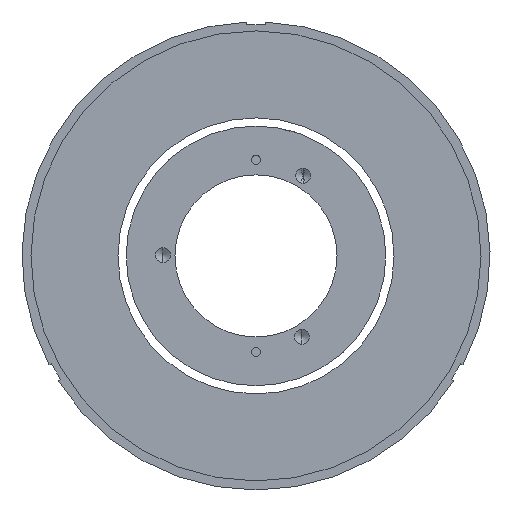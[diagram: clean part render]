
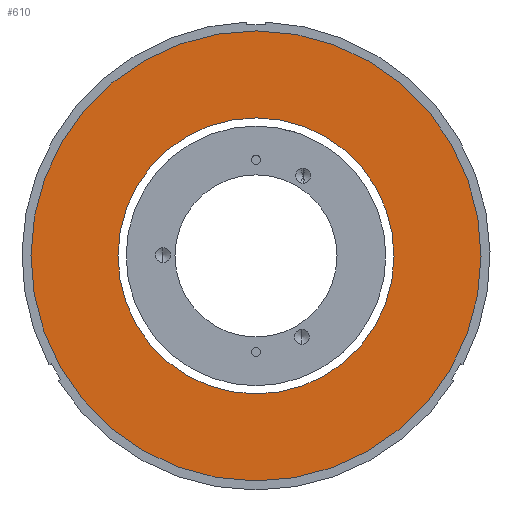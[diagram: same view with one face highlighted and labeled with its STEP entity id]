
A CAD part, front view. The second image highlights one B-rep face of the part: STEP entity #610.
In plain terms, the highlighted planar face has unit normal (0, -1, 0).
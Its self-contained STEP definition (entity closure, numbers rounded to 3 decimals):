
#203 = DIRECTION ( 'NONE',  ( -0.764, 0., 0.646 ) ) ;
#252 = DIRECTION ( 'NONE',  ( 0., 1., 0. ) ) ;
#472 = FACE_OUTER_BOUND ( 'NONE', #3662, .T. ) ;
#474 = CARTESIAN_POINT ( 'NONE',  ( -18.777, -3.315, 64.646 ) ) ;
#610 = ADVANCED_FACE ( 'NONE', ( #472, #1918 ), #4548, .F. ) ;
#634 = EDGE_CURVE ( 'NONE', #2937, #4086, #1154, .T. ) ;
#770 = DIRECTION ( 'NONE',  ( 0., 1., 0. ) ) ;
#817 = AXIS2_PLACEMENT_3D ( 'NONE', #4723, #252, #203 ) ;
#1000 = AXIS2_PLACEMENT_3D ( 'NONE', #1203, #3020, #2704 ) ;
#1059 = ORIENTED_EDGE ( 'NONE', *, *, #1589, .F. ) ;
#1154 = CIRCLE ( 'NONE', #1000, 23. ) ;
#1203 = CARTESIAN_POINT ( 'NONE',  ( 9.861, -3.315, 40.436 ) ) ;
#1393 = CIRCLE ( 'NONE', #4122, 37.5 ) ;
#1519 = DIRECTION ( 'NONE',  ( 0., 1., 0. ) ) ;
#1589 = EDGE_CURVE ( 'NONE', #4358, #3317, #1393, .T. ) ;
#1918 = FACE_BOUND ( 'NONE', #2874, .T. ) ;
#2077 = ORIENTED_EDGE ( 'NONE', *, *, #634, .T. ) ;
#2103 = AXIS2_PLACEMENT_3D ( 'NONE', #4186, #770, #3124 ) ;
#2173 = CIRCLE ( 'NONE', #3331, 23. ) ;
#2704 = DIRECTION ( 'NONE',  ( -0.764, 0., 0.646 ) ) ;
#2734 = EDGE_CURVE ( 'NONE', #3317, #4358, #4337, .T. ) ;
#2749 = DIRECTION ( 'NONE',  ( -0.764, 0., 0.646 ) ) ;
#2831 = ORIENTED_EDGE ( 'NONE', *, *, #3427, .T. ) ;
#2874 = EDGE_LOOP ( 'NONE', ( #2077, #2831 ) ) ;
#2937 = VERTEX_POINT ( 'NONE', #3047 ) ;
#3020 = DIRECTION ( 'NONE',  ( 0., 1., 0. ) ) ;
#3047 = CARTESIAN_POINT ( 'NONE',  ( 27.426, -3.315, 25.587 ) ) ;
#3124 = DIRECTION ( 'NONE',  ( -0.764, 0., 0.646 ) ) ;
#3317 = VERTEX_POINT ( 'NONE', #4137 ) ;
#3331 = AXIS2_PLACEMENT_3D ( 'NONE', #3426, #4521, #2749 ) ;
#3381 = DIRECTION ( 'NONE',  ( -0.764, 0., 0.646 ) ) ;
#3426 = CARTESIAN_POINT ( 'NONE',  ( 9.861, -3.315, 40.436 ) ) ;
#3427 = EDGE_CURVE ( 'NONE', #4086, #2937, #2173, .T. ) ;
#3543 = CARTESIAN_POINT ( 'NONE',  ( -7.703, -3.315, 55.284 ) ) ;
#3662 = EDGE_LOOP ( 'NONE', ( #3986, #1059 ) ) ;
#3718 = CARTESIAN_POINT ( 'NONE',  ( 9.861, -3.315, 40.436 ) ) ;
#3986 = ORIENTED_EDGE ( 'NONE', *, *, #2734, .F. ) ;
#4086 = VERTEX_POINT ( 'NONE', #3543 ) ;
#4122 = AXIS2_PLACEMENT_3D ( 'NONE', #3718, #1519, #3381 ) ;
#4137 = CARTESIAN_POINT ( 'NONE',  ( 38.499, -3.315, 16.226 ) ) ;
#4186 = CARTESIAN_POINT ( 'NONE',  ( 9.861, -3.315, 40.436 ) ) ;
#4337 = CIRCLE ( 'NONE', #817, 37.5 ) ;
#4358 = VERTEX_POINT ( 'NONE', #474 ) ;
#4521 = DIRECTION ( 'NONE',  ( 0., 1., 0. ) ) ;
#4548 = PLANE ( 'NONE',  #2103 ) ;
#4723 = CARTESIAN_POINT ( 'NONE',  ( 9.861, -3.315, 40.436 ) ) ;
